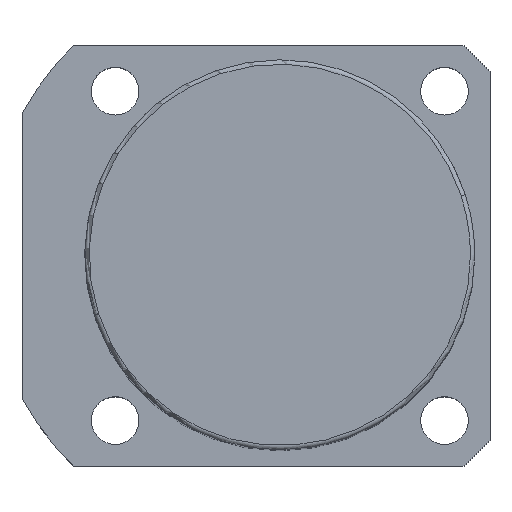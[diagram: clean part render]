
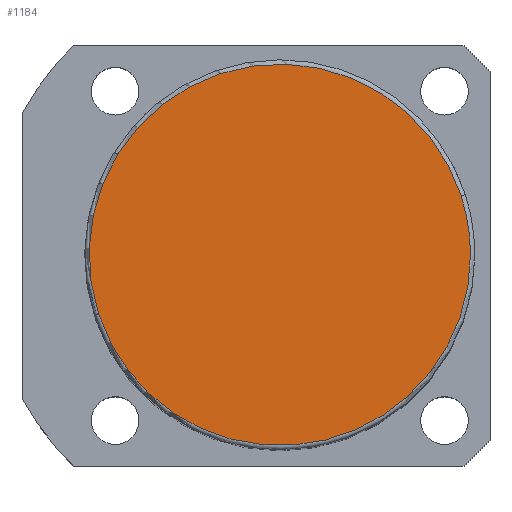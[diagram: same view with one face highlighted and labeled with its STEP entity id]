
A CAD part, top view. The second image highlights one B-rep face of the part: STEP entity #1184.
In plain terms, the highlighted planar face has unit normal (0, 0, 1).
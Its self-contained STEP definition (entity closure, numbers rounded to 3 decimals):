
#1117=CARTESIAN_POINT('',(41.846,13.597,156.5));
#1118=VERTEX_POINT('',#1117);
#1136=CARTESIAN_POINT('',(-41.846,-13.597,156.5));
#1137=VERTEX_POINT('',#1136);
#1145=CARTESIAN_POINT('',(0.0,0.0,156.5));
#1146=DIRECTION('',(0.0,0.0,1.0));
#1147=DIRECTION('',(1.0,0.0,0.0));
#1148=AXIS2_PLACEMENT_3D('',#1145,#1146,#1147);
#1149=CIRCLE('',#1148,44.0);
#1150=EDGE_CURVE('no 1729',#1118,#1137,#1149,.T.);
#1160=CARTESIAN_POINT('',(44.0,0.0,156.5));
#1161=VERTEX_POINT('',#1160);
#1162=CARTESIAN_POINT('',(0.0,0.0,156.5));
#1163=DIRECTION('',(0.0,0.0,1.0));
#1164=DIRECTION('',(1.0,0.0,0.0));
#1165=AXIS2_PLACEMENT_3D('',#1162,#1163,#1164);
#1166=CIRCLE('',#1165,44.0);
#1167=EDGE_CURVE('no 1738',#1161,#1118,#1166,.T.);
#1168=ORIENTED_EDGE('',*,*,#1167,.T.);
#1169=ORIENTED_EDGE('',*,*,#1150,.T.);
#1170=CARTESIAN_POINT('',(0.0,0.0,156.5));
#1171=DIRECTION('',(0.0,0.0,1.0));
#1172=DIRECTION('',(1.0,0.0,0.0));
#1173=AXIS2_PLACEMENT_3D('',#1170,#1171,#1172);
#1174=CIRCLE('',#1173,44.0);
#1175=EDGE_CURVE('no 1744',#1137,#1161,#1174,.T.);
#1176=ORIENTED_EDGE('',*,*,#1175,.T.);
#1177=EDGE_LOOP('',(#1168,#1169,#1176));
#1178=FACE_OUTER_BOUND('',#1177,.T.);
#1179=CARTESIAN_POINT('',(0.0,0.0,156.5));
#1180=DIRECTION('',(0.0,0.0,1.0));
#1181=DIRECTION('',(1.0,0.0,0.0));
#1182=AXIS2_PLACEMENT_3D('',#1179,#1180,#1181);
#1183=PLANE('',#1182);
#1184=ADVANCED_FACE('no 1731',(#1178),#1183,.T.);
